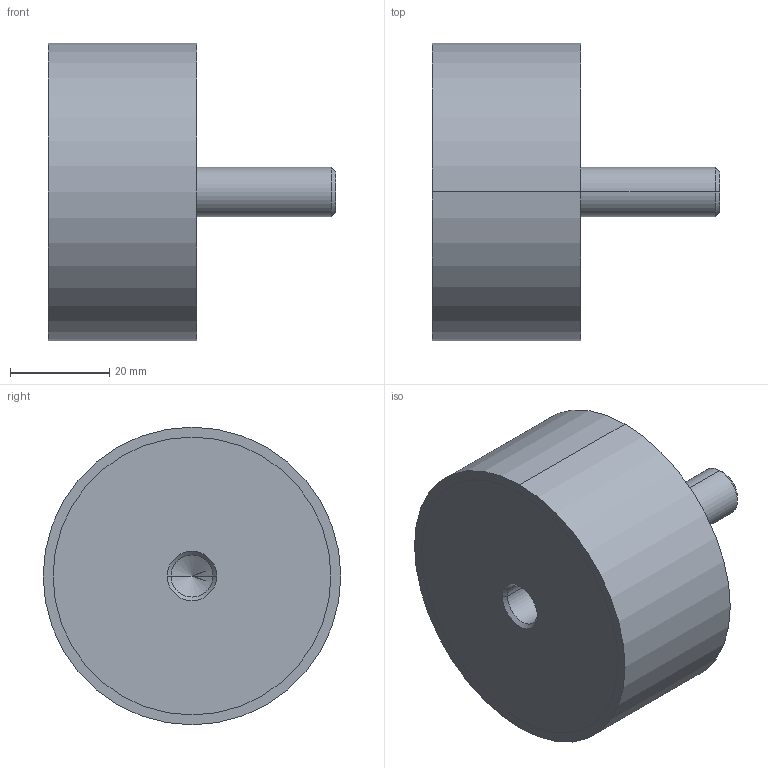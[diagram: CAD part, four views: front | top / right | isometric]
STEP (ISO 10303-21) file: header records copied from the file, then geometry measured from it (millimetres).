
FILE_DESCRIPTION (( 'STEP AP214' ), '1' );
FILE_NAME ('351-60-30-M10-ES-40.step', '2025-07-23T09:59:12', ( '' ), ( '' ), 'SwSTEP 2.0', 'SolidWorks 2022', '' );
FILE_SCHEMA (( 'AUTOMOTIVE_DESIGN' ));
Length unit declared in the file: millimetre
Products named in the file (1): 351-60-30-M10-ES-40
Bounding box: 58 x 60 x 60 mm (x, y, z)
Volume: 86273.2 mm3; surface area: 12470.6 mm2
Topology: 1 solids, 1 shells, 24 faces, 48 edges, 29 vertices
Faces by surface type: cylinder 12, cone 6, plane 6
Entity records: 740 total; most frequent: DIRECTION 124, CARTESIAN_POINT 100, ORIENTED_EDGE 92, AXIS2_PLACEMENT_3D 53, EDGE_CURVE 46, EDGE_LOOP 29, VERTEX_POINT 29, CIRCLE 28
